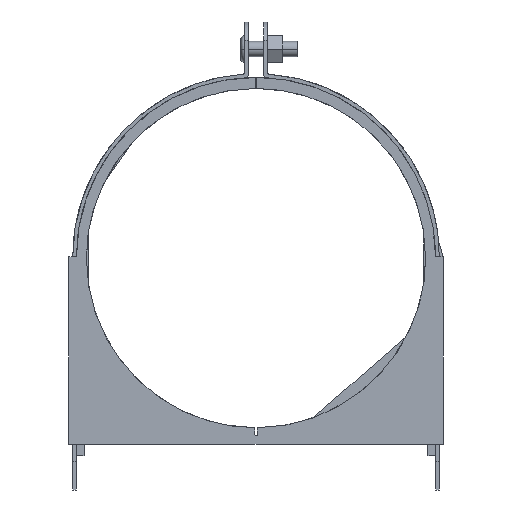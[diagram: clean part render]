
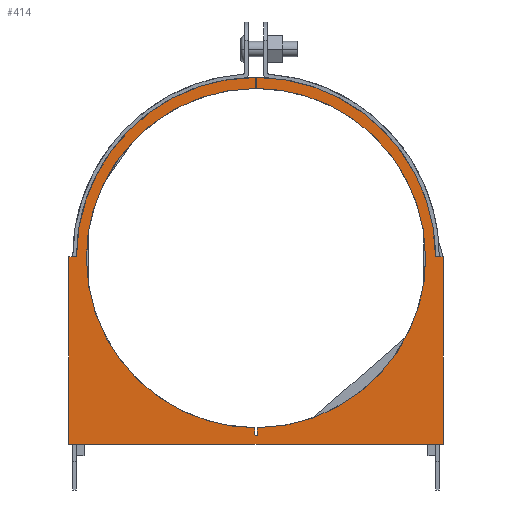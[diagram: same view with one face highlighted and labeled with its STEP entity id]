
A CAD part, front view. The second image highlights one B-rep face of the part: STEP entity #414.
In plain terms, the highlighted planar face has unit normal (0, -1, 0).
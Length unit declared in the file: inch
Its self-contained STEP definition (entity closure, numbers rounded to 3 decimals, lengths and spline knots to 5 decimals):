
#414=ADVANCED_FACE('',(#1112),#1113,.T.);
#1112=FACE_OUTER_BOUND('',#2086,.T.);
#1113=PLANE('',#2087);
#2086=EDGE_LOOP('',(#3934,#3935,#3936,#3937,#3938,#3939,#3940,#3941,#3942,#3943,#3944,#3945,#3946,#3947,#3948,#3949,#3950));
#2087=AXIS2_PLACEMENT_3D('',#3951,#3952,#3953);
#3934=ORIENTED_EDGE('',*,*,#5224,.F.);
#3935=ORIENTED_EDGE('',*,*,#5225,.F.);
#3936=ORIENTED_EDGE('',*,*,#5226,.F.);
#3937=ORIENTED_EDGE('',*,*,#5227,.F.);
#3938=ORIENTED_EDGE('',*,*,#5228,.F.);
#3939=ORIENTED_EDGE('',*,*,#5229,.F.);
#3940=ORIENTED_EDGE('',*,*,#5230,.F.);
#3941=ORIENTED_EDGE('',*,*,#5231,.F.);
#3942=ORIENTED_EDGE('',*,*,#5232,.F.);
#3943=ORIENTED_EDGE('',*,*,#5233,.F.);
#3944=ORIENTED_EDGE('',*,*,#5234,.F.);
#3945=ORIENTED_EDGE('',*,*,#5235,.F.);
#3946=ORIENTED_EDGE('',*,*,#5236,.F.);
#3947=ORIENTED_EDGE('',*,*,#5237,.F.);
#3948=ORIENTED_EDGE('',*,*,#5238,.F.);
#3949=ORIENTED_EDGE('',*,*,#5239,.F.);
#3950=ORIENTED_EDGE('',*,*,#5240,.F.);
#3951=CARTESIAN_POINT('',(3.00473,-0.125,3.53503));
#3952=DIRECTION('',(0.0,-1.0,0.0));
#3953=DIRECTION('',(1.0,0.0,0.0));
#5224=EDGE_CURVE('',#5624,#5625,#5626,.T.);
#5225=EDGE_CURVE('',#5627,#5624,#5628,.T.);
#5226=EDGE_CURVE('',#5629,#5627,#5630,.T.);
#5227=EDGE_CURVE('',#5631,#5629,#5632,.T.);
#5228=EDGE_CURVE('',#5633,#5631,#5634,.T.);
#5229=EDGE_CURVE('',#5635,#5633,#5636,.T.);
#5230=EDGE_CURVE('',#5637,#5635,#5638,.T.);
#5231=EDGE_CURVE('',#5639,#5637,#5640,.T.);
#5232=EDGE_CURVE('',#5641,#5639,#5642,.T.);
#5233=EDGE_CURVE('',#5643,#5641,#5644,.T.);
#5234=EDGE_CURVE('',#5645,#5643,#5646,.T.);
#5235=EDGE_CURVE('',#5647,#5645,#5648,.T.);
#5236=EDGE_CURVE('',#5649,#5647,#5650,.T.);
#5237=EDGE_CURVE('',#5651,#5649,#5652,.T.);
#5238=EDGE_CURVE('',#5653,#5651,#5654,.T.);
#5239=EDGE_CURVE('',#5655,#5653,#5656,.T.);
#5240=EDGE_CURVE('',#5625,#5655,#5657,.T.);
#5624=VERTEX_POINT('',#6183);
#5625=VERTEX_POINT('',#6184);
#5626=LINE('',#6185,#6186);
#5627=VERTEX_POINT('',#6187);
#5628=B_SPLINE_CURVE_WITH_KNOTS('',3,(#6188,#6189,#6190,#6191),.UNSPECIFIED.,.F.,.F.,(4,4),(-1.0,-0.0),.UNSPECIFIED.);
#5629=VERTEX_POINT('',#6192);
#5630=LINE('',#6193,#6194);
#5631=VERTEX_POINT('',#6195);
#5632=LINE('',#6196,#6197);
#5633=VERTEX_POINT('',#6198);
#5634=LINE('',#6199,#6200);
#5635=VERTEX_POINT('',#6201);
#5636=LINE('',#6202,#6203);
#5637=VERTEX_POINT('',#6204);
#5638=LINE('',#6205,#6206);
#5639=VERTEX_POINT('',#6207);
#5640=B_SPLINE_CURVE_WITH_KNOTS('',3,(#6208,#6209,#6210,#6211),.UNSPECIFIED.,.F.,.F.,(4,4),(-1.0,-0.0),.UNSPECIFIED.);
#5641=VERTEX_POINT('',#6212);
#5642=LINE('',#6213,#6214);
#5643=VERTEX_POINT('',#6215);
#5644=B_SPLINE_CURVE_WITH_KNOTS('',3,(#6216,#6217,#6218,#6219),.UNSPECIFIED.,.F.,.F.,(4,4),(-1.0,-0.0),.UNSPECIFIED.);
#5645=VERTEX_POINT('',#6220);
#5646=B_SPLINE_CURVE_WITH_KNOTS('',3,(#6221,#6222,#6223,#6224),.UNSPECIFIED.,.F.,.F.,(4,4),(-1.0,-0.0),.UNSPECIFIED.);
#5647=VERTEX_POINT('',#6225);
#5648=LINE('',#6226,#6227);
#5649=VERTEX_POINT('',#6228);
#5650=LINE('',#6229,#6230);
#5651=VERTEX_POINT('',#6231);
#5652=LINE('',#6232,#6233);
#5653=VERTEX_POINT('',#6234);
#5654=LINE('',#6235,#6236);
#5655=VERTEX_POINT('',#6237);
#5656=B_SPLINE_CURVE_WITH_KNOTS('',3,(#6238,#6239,#6240,#6241),.UNSPECIFIED.,.F.,.F.,(4,4),(-1.0,-0.0),.UNSPECIFIED.);
#5657=B_SPLINE_CURVE_WITH_KNOTS('',3,(#6242,#6243,#6244,#6245),.UNSPECIFIED.,.F.,.F.,(4,4),(-1.0,-0.0),.UNSPECIFIED.);
#6183=CARTESIAN_POINT('',(2.99923,-0.125,6.76169));
#6184=CARTESIAN_POINT('',(2.99924,-0.125,6.5807));
#6185=CARTESIAN_POINT('',(2.99924,-0.125,6.5807));
#6186=VECTOR('',#7070,1.0);
#6187=CARTESIAN_POINT('',(0.06263,-0.125,3.82305));
#6188=CARTESIAN_POINT('',(0.06263,-0.125,3.82305));
#6189=CARTESIAN_POINT('',(0.06838,-0.125,5.44124));
#6190=CARTESIAN_POINT('',(1.38041,-0.125,6.75871));
#6191=CARTESIAN_POINT('',(2.99923,-0.125,6.76169));
#6192=CARTESIAN_POINT('',(-0.06243,-0.125,3.823));
#6193=CARTESIAN_POINT('',(0.06263,-0.125,3.82305));
#6194=VECTOR('',#7071,1.);
#6195=CARTESIAN_POINT('',(-0.06243,-0.125,0.75));
#6196=CARTESIAN_POINT('',(-0.06243,-0.125,3.823));
#6197=VECTOR('',#7072,1.0);
#6198=CARTESIAN_POINT('',(6.07198,-0.125,0.75));
#6199=CARTESIAN_POINT('',(-0.06243,-0.125,0.75));
#6200=VECTOR('',#7073,1.0);
#6201=CARTESIAN_POINT('',(6.07198,-0.125,3.823));
#6202=CARTESIAN_POINT('',(6.07198,-0.125,0.75));
#6203=VECTOR('',#7074,1.0);
#6204=CARTESIAN_POINT('',(5.94702,-0.125,3.82305));
#6205=CARTESIAN_POINT('',(6.07198,-0.125,3.823));
#6206=VECTOR('',#7075,1.0);
#6207=CARTESIAN_POINT('',(3.01048,-0.125,6.76169));
#6208=CARTESIAN_POINT('',(3.01048,-0.125,6.76169));
#6209=CARTESIAN_POINT('',(4.62925,-0.125,6.75865));
#6210=CARTESIAN_POINT('',(5.94126,-0.125,5.4412));
#6211=CARTESIAN_POINT('',(5.94702,-0.125,3.82305));
#6212=CARTESIAN_POINT('',(3.01077,-0.125,6.5807));
#6213=CARTESIAN_POINT('',(3.01048,-0.125,6.76169));
#6214=VECTOR('',#7076,1.0);
#6215=CARTESIAN_POINT('',(5.78465,-0.125,3.80073));
#6216=CARTESIAN_POINT('',(5.78465,-0.125,3.80073));
#6217=CARTESIAN_POINT('',(5.78465,-0.125,5.33405));
#6218=CARTESIAN_POINT('',(4.54332,-0.125,6.57741));
#6219=CARTESIAN_POINT('',(3.01077,-0.125,6.5807));
#6220=CARTESIAN_POINT('',(3.03268,-0.125,1.02085));
#6221=CARTESIAN_POINT('',(3.03268,-0.125,1.02085));
#6222=CARTESIAN_POINT('',(4.55516,-0.125,1.03585));
#6223=CARTESIAN_POINT('',(5.78465,-0.125,2.27471));
#6224=CARTESIAN_POINT('',(5.78465,-0.125,3.80073));
#6225=CARTESIAN_POINT('',(3.0214,-0.125,0.89341));
#6226=CARTESIAN_POINT('',(3.03268,-0.125,1.02085));
#6227=VECTOR('',#7077,1.0);
#6228=CARTESIAN_POINT('',(3.00497,-0.125,0.88894));
#6229=CARTESIAN_POINT('',(3.0214,-0.125,0.89341));
#6230=VECTOR('',#7078,1.0);
#6231=CARTESIAN_POINT('',(2.99008,-0.125,0.89341));
#6232=CARTESIAN_POINT('',(3.00497,-0.125,0.88894));
#6233=VECTOR('',#7079,1.0);
#6234=CARTESIAN_POINT('',(2.97583,-0.125,1.02086));
#6235=CARTESIAN_POINT('',(2.99008,-0.125,0.89341));
#6236=VECTOR('',#7080,1.0);
#6237=CARTESIAN_POINT('',(0.22465,-0.125,3.80073));
#6238=CARTESIAN_POINT('',(0.22465,-0.125,3.80073));
#6239=CARTESIAN_POINT('',(0.22465,-0.125,2.27502));
#6240=CARTESIAN_POINT('',(1.45377,-0.125,1.03635));
#6241=CARTESIAN_POINT('',(2.97583,-0.125,1.02086));
#6242=CARTESIAN_POINT('',(2.99924,-0.125,6.5807));
#6243=CARTESIAN_POINT('',(1.46638,-0.125,6.57778));
#6244=CARTESIAN_POINT('',(0.22465,-0.125,5.33428));
#6245=CARTESIAN_POINT('',(0.22465,-0.125,3.80073));
#7070=DIRECTION('',(0.,0.0,-1.));
#7071=DIRECTION('',(1.,0.0,0.));
#7072=DIRECTION('',(0.0,0.0,1.0));
#7073=DIRECTION('',(-1.0,0.0,-0.0));
#7074=DIRECTION('',(-0.0,0.0,-1.0));
#7075=DIRECTION('',(1.,0.0,0.));
#7076=DIRECTION('',(-0.002,0.0,1.));
#7077=DIRECTION('',(0.088,0.0,0.996));
#7078=DIRECTION('',(0.965,0.0,0.262));
#7079=DIRECTION('',(0.958,0.0,-0.287));
#7080=DIRECTION('',(0.111,0.0,-0.994));
